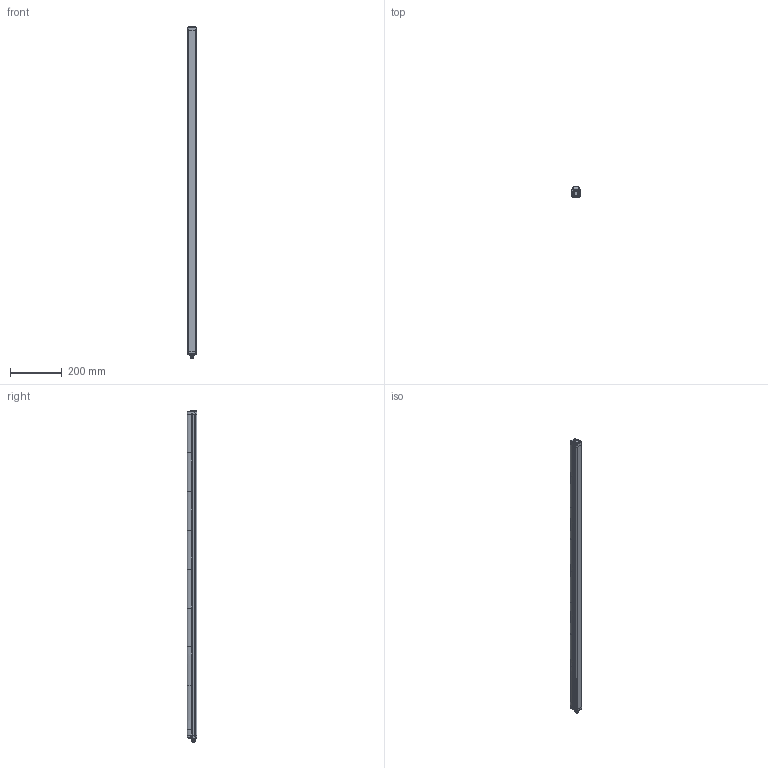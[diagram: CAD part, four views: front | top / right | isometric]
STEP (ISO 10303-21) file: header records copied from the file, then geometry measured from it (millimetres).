
FILE_DESCRIPTION(/* description */ (''),/* implementation_level */ '2;1');
FILE_NAME(/* name */ 'DSD-0152.stp',/* time_stamp */ '2020-07-15T16:11:28+02:00',/* author */ (''),/* organization */ (''),/* preprocessor_version */ 'ST-DEVELOPER v16.7',/* originating_system */ 'SIEMENS PLM Software NX 12.0',/* authorisation */ '');
FILE_SCHEMA (('AUTOMOTIVE_DESIGN { 1 0 10303 214 3 1 1 1 }'));
Products named in the file (1): AP025793_00_1-DSD-0152
Bounding box: 32.3 x 36.9 x 1283.34 mm (x, y, z)
Volume: 1281651.3 mm3; surface area: 299208.9 mm2
Topology: 12 solids, 716 shells, 1627 faces, 5105 edges, 4017 vertices
Faces by surface type: cylinder 606, bspline 556, plane 376, sphere 54, cone 27, torus 8
Full cylindrical faces by diameter (mm): 1 x8, 1.5 x6, 2 x6, 2.05 x4, 2.5 x12, 2.7 x10, 2.9 x6, 3 x12, 3.4 x6, 3.6 x12, 4.7 x2, 5 x10, 5.3 x2, 7.5 x1, 8 x1, 8.2 x1, 9.3 x1, 9.5 x1, 9.55 x1, 10.5 x1, 11 x2, 12 x12, 13.97 x1, 14.3 x1, 16 x2
Entity records: 84035 total; most frequent: CARTESIAN_POINT 35518, ORIENTED_EDGE 6942, DIRECTION 5955, EDGE_CURVE 4897, VERTEX_POINT 4014, AXIS2_PLACEMENT_3D 2321, EDGE_LOOP 1863, PRESENTATION_STYLE_ASSIGNMENT 1636
